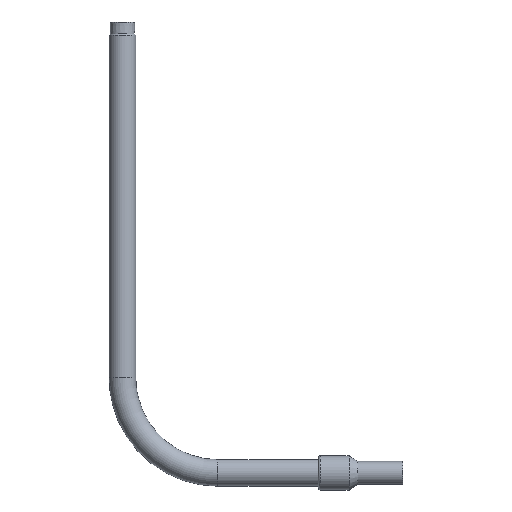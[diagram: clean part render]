
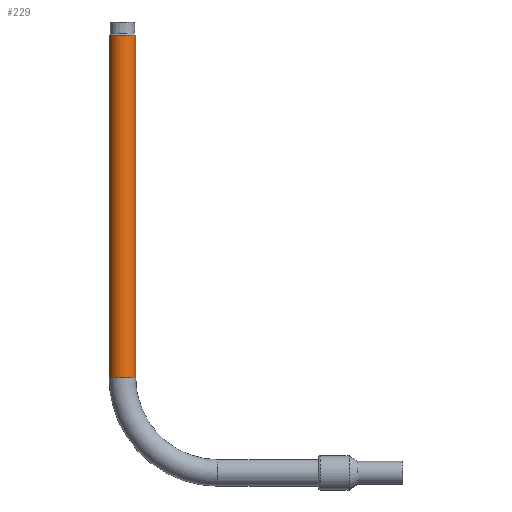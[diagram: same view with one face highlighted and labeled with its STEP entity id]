
A CAD part, top view. The second image highlights one B-rep face of the part: STEP entity #229.
In plain terms, the highlighted cylindrical face has radius 23 mm (diameter 46 mm), a full revolution.
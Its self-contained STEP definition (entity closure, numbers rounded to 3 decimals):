
#42=CYLINDRICAL_SURFACE('',#349,23.);
#64=ORIENTED_EDGE('',*,*,#93,.T.);
#65=ORIENTED_EDGE('',*,*,#94,.T.);
#93=EDGE_CURVE('',#112,#112,#131,.T.);
#94=EDGE_CURVE('',#113,#113,#132,.F.);
#112=VERTEX_POINT('',#483);
#113=VERTEX_POINT('',#485);
#131=CIRCLE('',#350,23.);
#132=CIRCLE('',#351,23.);
#159=EDGE_LOOP('',(#64));
#160=EDGE_LOOP('',(#65));
#197=FACE_BOUND('',#159,.T.);
#198=FACE_BOUND('',#160,.T.);
#229=ADVANCED_FACE('',(#197,#198),#42,.T.);
#349=AXIS2_PLACEMENT_3D('',#481,#410,#411);
#350=AXIS2_PLACEMENT_3D('',#482,#412,#413);
#351=AXIS2_PLACEMENT_3D('',#484,#414,#415);
#410=DIRECTION('',(1.,0.,0.));
#411=DIRECTION('',(0.,0.,-1.));
#412=DIRECTION('',(-1.,0.,0.));
#413=DIRECTION('',(0.,0.,1.));
#414=DIRECTION('',(-1.,0.,0.));
#415=DIRECTION('',(0.,0.,-1.));
#481=CARTESIAN_POINT('',(188.,0.,391.));
#482=CARTESIAN_POINT('',(779.95,0.,391.));
#483=CARTESIAN_POINT('',(779.95,0.,414.));
#484=CARTESIAN_POINT('',(188.,0.,391.));
#485=CARTESIAN_POINT('',(188.,0.,368.));
